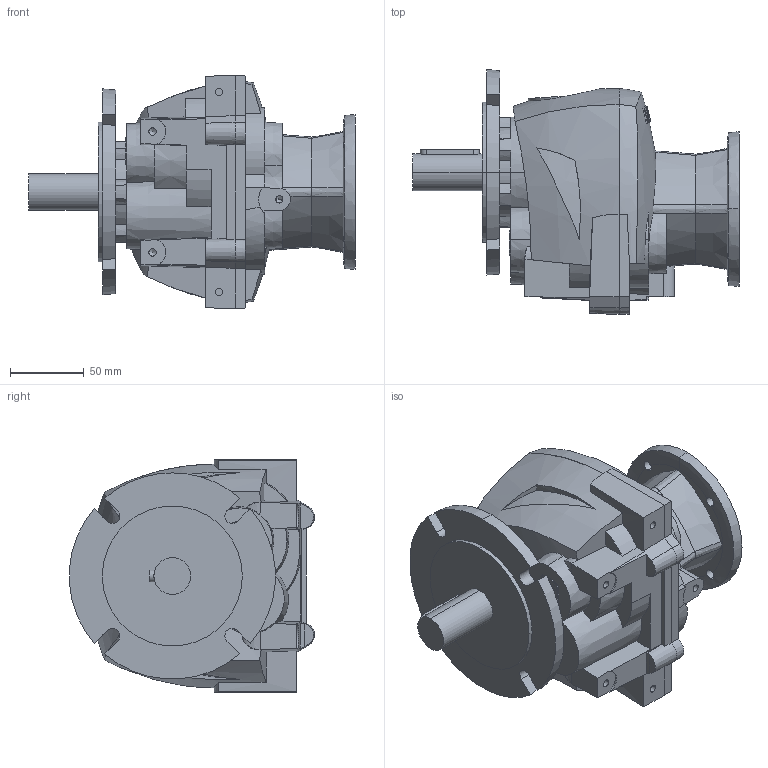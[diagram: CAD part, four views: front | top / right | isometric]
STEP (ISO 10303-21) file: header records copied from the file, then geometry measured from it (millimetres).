
FILE_DESCRIPTION (( 'STEP AP203' ), '1' );
FILE_NAME ('RBA2_IFL71B4_OFL140_OSH25L50.STEP', '2013-02-07T10:24:19', ( '' ), ( '' ), 'SwSTEP 2.0', 'SolidWorks 2012', '' );
FILE_SCHEMA (( 'CONFIG_CONTROL_DESIGN' ));
Length unit declared in the file: millimetre
Products named in the file (1): RBA2_IFL71B4_OFL140_OSH25L50
Bounding box: 221.5 x 166.28 x 158 mm (x, y, z)
Volume: 1925368.9 mm3; surface area: 148655 mm2
Topology: 1 solids, 1 shells, 468 faces, 1325 edges, 881 vertices
Faces by surface type: plane 220, cylinder 124, bspline 66, cone 54, torus 4
Entity records: 20650 total; most frequent: CARTESIAN_POINT 9500, ORIENTED_EDGE 2638, DIRECTION 1859, EDGE_CURVE 1319, VERTEX_POINT 879, AXIS2_PLACEMENT_3D 689, B_SPLINE_CURVE_WITH_KNOTS 513, EDGE_LOOP 502
